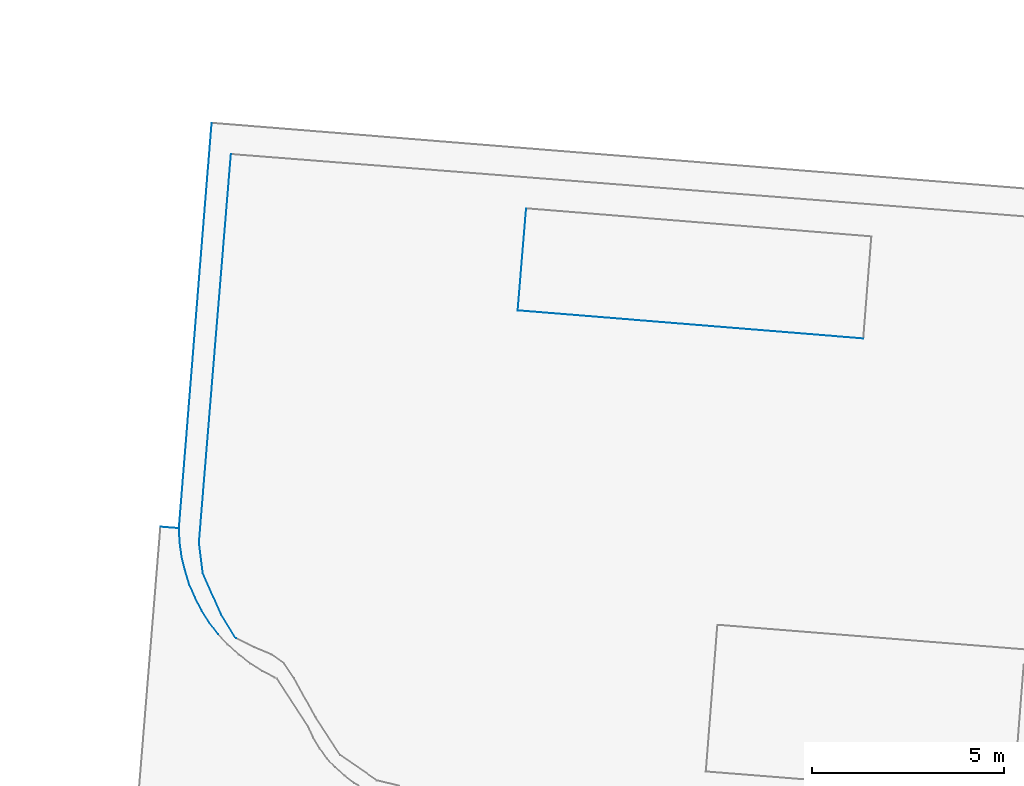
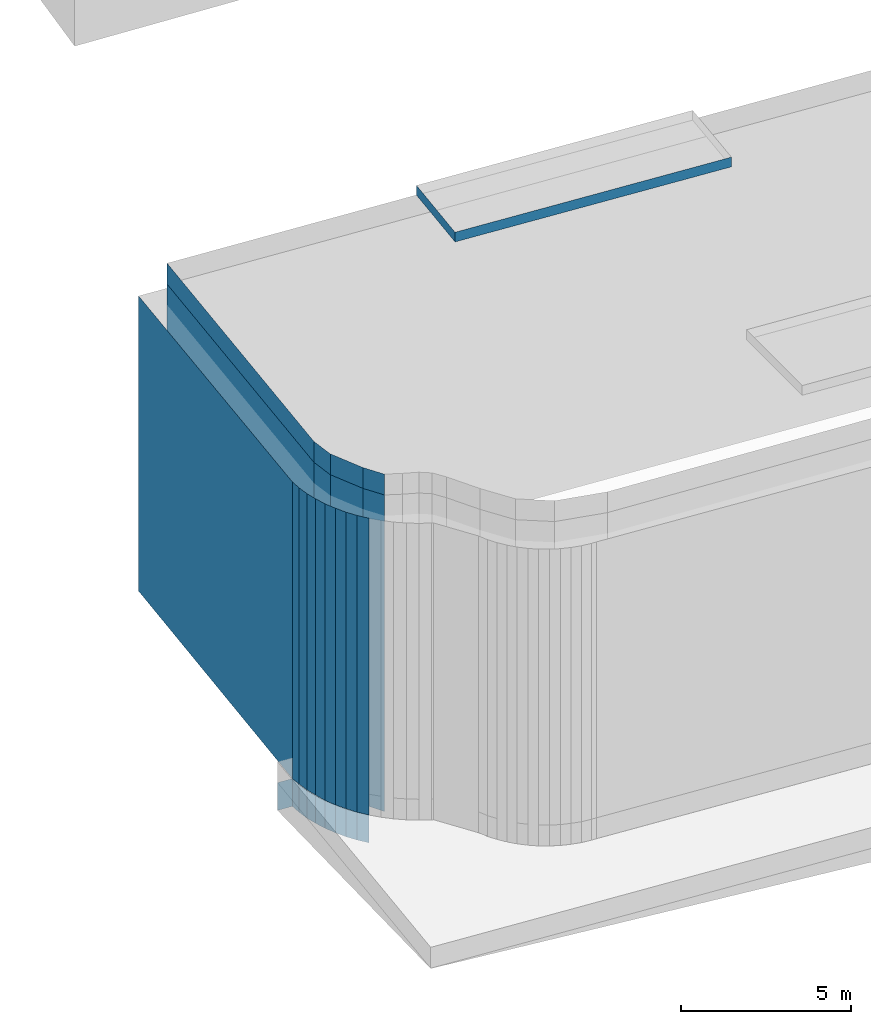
# Not in any storey, part 61 of 136: 34 walls.
"""IFC2X3 building model written with IfcOpenShell, lengths in metres."""

import ifcopenshell
import ifcopenshell.guid

model = None  # the IFC model being written
_history = None  # IfcOwnerHistory: only IFC2X3 demands one
_inside = {}  # id of a spatial element -> (the spatial element, [elements in it])
_under = {}  # id of a project, library or spatial element -> (it, [spatial elements below it])
_declared = {}  # id of a project -> (the project, [libraries it declares])
_typed = {}  # id of a type object -> (the type object, [elements of that type])
_made_of = {}  # id of a material, layer set ... -> (it, [elements and type objects made of it])


def new_model(schema):
    """Start an empty IFC model of exactly this schema.

    Asked for "IFC4X3", IfcOpenShell would pick the latest addendum, in which some entities
    have other attributes; the version numbers below select the first issue.
    IFC2X3 requires an IfcOwnerHistory on every rooted entity: one is made here for all.
    """
    global model, _history
    if schema == "IFC4X3":
        model = ifcopenshell.file(schema_version=(4, 3, 0, 0))
    else:
        model = ifcopenshell.file(schema=schema)
    _inside.clear()
    _under.clear()
    _declared.clear()
    _typed.clear()
    _made_of.clear()
    _history = None
    if model.schema == "IFC2X3":
        org = make("IfcOrganization", Name="unknown")
        user = make(
            "IfcPersonAndOrganization",
            ThePerson=make("IfcPerson", FamilyName="unknown"),
            TheOrganization=org,
        )
        app = make(
            "IfcApplication",
            ApplicationDeveloper=org,
            Version="unknown",
            ApplicationFullName="unknown",
            ApplicationIdentifier="unknown",
        )
        _history = make(
            "IfcOwnerHistory",
            OwningUser=user,
            OwningApplication=app,
            ChangeAction="ADDED",
            CreationDate=0,
        )
    return model


def make(cls, **values):
    """One entity of the class cls with the attributes given. An attribute that is None is left unset."""
    return model.create_entity(
        cls, **{name: value for name, value in values.items() if value is not None}
    )


def entity(cls, *values):
    """Any entity or typed value of the class cls, its attributes in the order of the schema. None: left unset."""
    e = model.create_entity(cls)
    for i, value in enumerate(values):
        if value is not None:
            e[i] = value
    return e


def rooted(cls, **values):
    """An entity with a GlobalId (a new one), such as an element, a storey or a relation."""
    return make(cls, GlobalId=ifcopenshell.guid.new(), OwnerHistory=_history, **values)


def si_unit(unit_type, name, prefix=None):
    """IfcSIUnit, for example si_unit("LENGTHUNIT", "METRE", prefix="MILLI")."""
    return make("IfcSIUnit", UnitType=unit_type, Prefix=prefix, Name=name)


def converted_unit(unit_type, name, factor, base, dimensions=None, offset=None):
    """IfcConversionBasedUnit, such as the inch: factor (a typed value) times the base unit."""
    return make(
        "IfcConversionBasedUnit"
        if offset is None
        else "IfcConversionBasedUnitWithOffset",
        ConversionOffset=offset,
        Dimensions=None
        if dimensions is None
        else entity("IfcDimensionalExponents", *dimensions),
        UnitType=unit_type,
        Name=name,
        ConversionFactor=make(
            "IfcMeasureWithUnit", ValueComponent=factor, UnitComponent=base
        ),
    )


def assignment(units):
    """IfcUnitAssignment: the units of a project."""
    return None if units is None else make("IfcUnitAssignment", Units=units)


def point(xyz):
    """IfcCartesianPoint."""
    return None if xyz is None else make("IfcCartesianPoint", Coordinates=xyz)


def direction(xyz):
    """IfcDirection."""
    return None if xyz is None else make("IfcDirection", DirectionRatios=xyz)


def frame(location, z_axis=None, x_axis=None):
    """IfcAxis2Placement3D, a coordinate frame: its origin and axes. An axis left out is left unset."""
    return make(
        "IfcAxis2Placement3D",
        Location=point(location),
        Axis=direction(z_axis),
        RefDirection=direction(x_axis),
    )


def origin():
    """The frame at (0, 0, 0) with its axes left unset."""
    return frame((0.0, 0.0, 0.0))


def place(relative_to, where):
    """IfcLocalPlacement: puts the frame where relative to a parent placement (None: the world)."""
    return make(
        "IfcLocalPlacement", PlacementRelTo=relative_to, RelativePlacement=where
    )


def context(
    kind, dimensions, precision=None, world=None, true_north=None, identifier=None
):
    """IfcGeometricRepresentationContext, for example the 3D "Model" context."""
    return make(
        "IfcGeometricRepresentationContext",
        ContextIdentifier=identifier,
        ContextType=kind,
        CoordinateSpaceDimension=dimensions,
        Precision=precision,
        WorldCoordinateSystem=world,
        TrueNorth=true_north,
    )


def subcontext(parent, identifier, kind, view, scale=None):
    """IfcGeometricRepresentationSubContext, for example "Body" below "Model"."""
    return make(
        "IfcGeometricRepresentationSubContext",
        ContextIdentifier=identifier,
        ContextType=kind,
        ParentContext=parent,
        TargetScale=scale,
        TargetView=view,
    )


def project(units=None, contexts=None):
    """IfcProject with its units and contexts."""
    return rooted(
        "IfcProject",
        Name="project",
        RepresentationContexts=contexts,
        UnitsInContext=assignment(units),
    )


def spatial(cls, under=None, at=None, **own):
    """A site, building, storey or space (cls), placed at a placement, below another one or the project."""
    s = rooted(cls, ObjectPlacement=at, **own)
    if under is not None:
        _under.setdefault(under.id(), (under, []))[1].append(s)
    return s


def faces_of(points, faces, orient=None, outer=None):
    """IfcFace entities. A face is a list of loops; a loop is a list of indices into points, from 0.

    orient and outer hold one flag for each loop. By default every Orientation is true, the
    first loop of a face is its IfcFaceOuterBound and the others are IfcFaceBound.
    """
    made = []
    for i, loops in enumerate(faces):
        bounds = []
        for j, loop in enumerate(loops):
            is_outer = j == 0 if outer is None else outer[i][j]
            bounds.append(
                make(
                    "IfcFaceOuterBound" if is_outer else "IfcFaceBound",
                    Bound=make("IfcPolyLoop", Polygon=[points[k] for k in loop]),
                    Orientation=True if orient is None else orient[i][j],
                )
            )
        made.append(make("IfcFace", Bounds=bounds))
    return made


def face_set(faces, orient=None, outer=None):
    """The faces of one IfcConnectedFaceSet. surface_model builds it on its shared points."""
    return ("IfcConnectedFaceSet", faces, orient, outer)


def surface_model(cls, points, shells):
    """IfcFaceBasedSurfaceModel or IfcShellBasedSurfaceModel (cls): surfaces that need not close."""
    shared = [point(p) for p in points]
    made = [make(c, CfsFaces=faces_of(shared, fs, o, b)) for c, fs, o, b in shells]
    if cls == "IfcFaceBasedSurfaceModel":
        return make(cls, FbsmFaces=made)
    return make(cls, SbsmBoundary=made)


def shape(context_of_items, identifier, shape_type, items):
    """IfcShapeRepresentation: the items that make up one representation, for example the "Body"."""
    return make(
        "IfcShapeRepresentation",
        ContextOfItems=context_of_items,
        RepresentationIdentifier=identifier,
        RepresentationType=shape_type,
        Items=items,
    )


def made_of(thing, what):
    """Note that an element or type object is made of a material, layer set ...; save() writes the relation."""
    if what is not None:
        _made_of.setdefault(what.id(), (what, []))[1].append(thing)
    return thing


def element(
    cls,
    number,
    at=None,
    inside=None,
    cuts=None,
    type_object=None,
    material=None,
    context=None,
    identifier="Body",
    shape_type=None,
    held_by="IfcProductDefinitionShape",
    body=None,
    shapes=None,
    **own,
):
    """One element of the class cls, such as IfcWall. Its Tag is "e" and its number.

    at: its placement. inside: the storey or other place that contains it. cuts: it is an
    opening in that element (IfcRelVoidsElement). A single representation is given by context,
    identifier, shape_type and body (its items); several are given by shapes. held_by: the class
    of the entity that holds the representations. save() writes the other relations.
    """
    e = rooted(cls, Tag="e%d" % number, ObjectPlacement=at, **own)
    if body is not None:
        shapes = [shape(context, identifier, shape_type, body)]
    if shapes is not None:
        e.Representation = make(held_by, Representations=shapes)
    if inside is not None:
        _inside.setdefault(inside.id(), (inside, []))[1].append(e)
    if cuts is not None:
        rooted(
            "IfcRelVoidsElement", RelatingBuildingElement=cuts, RelatedOpeningElement=e
        )
    if type_object is not None:
        _typed.setdefault(type_object.id(), (type_object, []))[1].append(e)
    return made_of(e, material)


def aggregate(whole, parts):
    """IfcRelAggregates: a whole, such as a stair, and the parts it consists of."""
    return rooted("IfcRelAggregates", RelatingObject=whole, RelatedObjects=parts)


def save(model, path):
    """Write the relations noted so far, then the file.

    IfcRelAggregates (storeys below a building ...), IfcRelContainedInSpatialStructure (elements
    in a storey), IfcRelDefinesByType, IfcRelAssociatesMaterial and IfcRelDeclares: one each for
    every whole, place, type object, material and project.
    """
    for whole, parts in _under.values():
        aggregate(whole, parts)
    for where, things in _inside.values():
        rooted(
            "IfcRelContainedInSpatialStructure",
            RelatedElements=things,
            RelatingStructure=where,
        )
    for kind, things in _typed.values():
        rooted("IfcRelDefinesByType", RelatedObjects=things, RelatingType=kind)
    for what, things in _made_of.values():
        rooted("IfcRelAssociatesMaterial", RelatedObjects=things, RelatingMaterial=what)
    for by, libraries in _declared.values():
        rooted("IfcRelDeclares", RelatingContext=by, RelatedDefinitions=libraries)
    model.write(path)


model = new_model("IFC2X3")

# Units and contexts
model_context = context("Model", 3, precision=1e-05, world=origin())
body_context = subcontext(model_context, "Body", "Model", "MODEL_VIEW")
ifc_project = project(units=[converted_unit("PLANEANGLEUNIT", "DEGREE", entity("IfcRatioMeasure", 0.0174532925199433), si_unit("PLANEANGLEUNIT", "RADIAN"), dimensions=[0, 0, 0, 0, 0, 0, 0]), si_unit("AREAUNIT", "SQUARE_METRE"), si_unit("LENGTHUNIT", "METRE")], contexts=[model_context])

# Site, building
site_placement = place(None, origin())
site = spatial("IfcSite", under=ifc_project, at=site_placement, Name="_site", CompositionType="ELEMENT")
building_placement = place(site_placement, origin())
building = spatial("IfcBuilding", under=site, at=building_placement, Name="_building", CompositionType="ELEMENT")

# Walls
wall_1_placement = place(building_placement, origin())
element("IfcWall", 1, at=wall_1_placement, inside=building, Name="Wall", context=body_context, shape_type="SurfaceModel", body=[
    surface_model("IfcFaceBasedSurfaceModel", [(175.74, 57.46, 48.6), (175.57, 57.8, 48.6), (175.57, 57.8, 37.93), (175.74, 57.46, 37.939)], [face_set([[[0, 1, 2, 3]]])]),
])
wall_2_placement = place(building_placement, origin())
element("IfcWall", 2, at=wall_2_placement, inside=building, Name="Wall", context=body_context, shape_type="SurfaceModel", body=[
    surface_model("IfcFaceBasedSurfaceModel", [(175.17, 59.23, 48.6), (175.15, 59.601, 48.6), (175.15, 59.601, 37.93), (175.17, 59.23, 37.946)], [face_set([[[0, 1, 2, 3]]])]),
])
wall_3_placement = place(building_placement, origin())
element("IfcWall", 3, at=wall_3_placement, inside=building, Name="Wall", context=body_context, shape_type="SurfaceModel", body=[
    surface_model("IfcFaceBasedSurfaceModel", [(175.67, 59.23, 49.344), (176.5, 69.32, 49.344), (176.5, 69.32, 50.094), (175.67, 59.23, 50.094)], [face_set([[[0, 1, 2, 3]]])]),
])
wall_4_placement = place(building_placement, origin())
element("IfcWall", 4, at=wall_4_placement, inside=building, Name="Wall", context=body_context, shape_type="SurfaceModel", body=[
    surface_model("IfcFaceBasedSurfaceModel", [(176.63, 56.74, 49.344), (176.25, 57.351, 49.344), (176.25, 57.351, 50.094), (176.63, 56.74, 50.094)], [face_set([[[0, 1, 2, 3]]])]),
])
wall_5_placement = place(building_placement, origin())
element("IfcWall", 5, at=wall_5_placement, inside=building, Name="Wall", context=body_context, shape_type="SurfaceModel", body=[
    surface_model("IfcFaceBasedSurfaceModel", [(175.94, 57.15, 48.6), (175.74, 57.46, 48.6), (175.74, 57.46, 37.939), (175.94, 57.15, 37.93)], [face_set([[[0, 1, 2, 3]]])]),
])
wall_6_placement = place(building_placement, origin())
element("IfcWall", 6, at=wall_6_placement, inside=building, Name="Wall", context=body_context, shape_type="SurfaceModel", body=[
    surface_model("IfcFaceBasedSurfaceModel", [(175.42, 58.14, 37.93), (175.57, 57.8, 37.93), (175.57, 57.8, 36.93), (175.42, 58.14, 36.93)], [face_set([[[0, 1, 2, 3]]])]),
])
wall_7_placement = place(building_placement, origin())
element("IfcWall", 7, at=wall_7_placement, inside=building, Name="Wall", context=body_context, shape_type="SurfaceModel", body=[
    surface_model("IfcFaceBasedSurfaceModel", [(175.74, 57.46, 37.93), (175.94, 57.15, 37.93), (175.94, 57.15, 36.93), (175.74, 57.46, 36.93)], [face_set([[[0, 1, 2, 3]]])]),
])
wall_8_placement = place(building_placement, origin())
element("IfcWall", 8, at=wall_8_placement, inside=building, Name="Wall", context=body_context, shape_type="SurfaceModel", body=[
    surface_model("IfcFaceBasedSurfaceModel", [(175.94, 57.15, 37.93), (176.17, 56.851, 37.93), (176.17, 56.851, 36.93), (175.94, 57.15, 36.93)], [face_set([[[0, 1, 2, 3]]])]),
])
wall_9_placement = place(building_placement, origin())
element("IfcWall", 9, at=wall_9_placement, inside=building, Name="Wall", context=body_context, shape_type="SurfaceModel", body=[
    surface_model("IfcFaceBasedSurfaceModel", [(175.67, 59.23, 49.344), (176.5, 69.32, 49.344), (176.5, 69.32, 50.094), (175.67, 59.23, 50.094)], [face_set([[[0, 1, 2, 3]]])]),
])
wall_10_placement = place(building_placement, origin())
element("IfcWall", 10, at=wall_10_placement, inside=building, Name="Wall", context=body_context, shape_type="SurfaceModel", body=[
    surface_model("IfcFaceBasedSurfaceModel", [(176.25, 57.351, 49.344), (175.77, 58.44, 49.344), (175.77, 58.44, 50.094), (176.25, 57.351, 50.094)], [face_set([[[0, 1, 2, 3]]])]),
])
wall_11_placement = place(building_placement, origin())
element("IfcWall", 11, at=wall_11_placement, inside=building, Name="Wall", context=body_context, shape_type="SurfaceModel", body=[
    surface_model("IfcFaceBasedSurfaceModel", [(176.63, 56.74, 49.344), (176.25, 57.351, 49.344), (176.25, 57.351, 50.094), (176.63, 56.74, 50.094)], [face_set([[[0, 1, 2, 3]]])]),
])
wall_12_placement = place(building_placement, origin())
element("IfcWall", 12, at=wall_12_placement, inside=building, Name="Wall", context=body_context, shape_type="SurfaceModel", body=[
    surface_model("IfcFaceBasedSurfaceModel", [(175.77, 58.44, 49.344), (175.67, 59.23, 49.344), (175.67, 59.23, 50.094), (175.77, 58.44, 50.094)], [face_set([[[0, 1, 2, 3]]])]),
])
wall_13_placement = place(building_placement, origin())
element("IfcWall", 13, at=wall_13_placement, inside=building, Name="Wall", context=body_context, shape_type="SurfaceModel", body=[
    surface_model("IfcFaceBasedSurfaceModel", [(176.25, 57.351, 49.344), (175.77, 58.44, 49.344), (175.77, 58.44, 37.954), (176.25, 57.351, 37.984)], [face_set([[[0, 1, 2, 3]]])]),
])
wall_14_placement = place(building_placement, origin())
element("IfcWall", 14, at=wall_14_placement, inside=building, Name="Wall", context=body_context, shape_type="SurfaceModel", body=[
    surface_model("IfcFaceBasedSurfaceModel", [(175.15, 59.601, 48.6), (176.0, 70.13, 48.6), (176.0, 70.13, 37.991), (175.15, 59.601, 37.93)], [face_set([[[0, 1, 2, 3]]])]),
])
wall_15_placement = place(building_placement, origin())
element("IfcWall", 15, at=wall_15_placement, inside=building, Name="Wall", context=body_context, shape_type="SurfaceModel", body=[
    surface_model("IfcFaceBasedSurfaceModel", [(175.31, 58.5, 48.6), (175.22, 58.86, 48.6), (175.22, 58.86, 37.947), (175.31, 58.5, 37.948)], [face_set([[[0, 1, 2, 3]]])]),
])
wall_16_placement = place(building_placement, origin())
element("IfcWall", 16, at=wall_16_placement, inside=building, Name="Wall", context=body_context, shape_type="SurfaceModel", body=[
    surface_model("IfcFaceBasedSurfaceModel", [(183.95, 65.26, 51.06), (184.17, 67.91, 51.06), (184.17, 67.91, 50.71), (183.95, 65.26, 50.71)], [face_set([[[0, 1, 2, 3]]])]),
])
wall_17_placement = place(building_placement, origin())
element("IfcWall", 17, at=wall_17_placement, inside=building, Name="Wall", context=body_context, shape_type="SurfaceModel", body=[
    surface_model("IfcFaceBasedSurfaceModel", [(175.31, 58.5, 37.93), (175.42, 58.14, 37.93), (175.42, 58.14, 36.93), (175.31, 58.5, 36.93)], [face_set([[[0, 1, 2, 3]]])]),
])
wall_18_placement = place(building_placement, origin())
element("IfcWall", 18, at=wall_18_placement, inside=building, Name="Wall", context=body_context, shape_type="SurfaceModel", body=[
    surface_model("IfcFaceBasedSurfaceModel", [(174.67, 59.64, 37.93), (175.15, 59.601, 37.93), (175.15, 59.601, 36.93), (174.67, 59.64, 36.93)], [face_set([[[0, 1, 2, 3]]])]),
])
wall_19_placement = place(building_placement, origin())
element("IfcWall", 19, at=wall_19_placement, inside=building, Name="Wall", context=body_context, shape_type="SurfaceModel", body=[
    surface_model("IfcFaceBasedSurfaceModel", [(175.15, 59.601, 37.93), (175.17, 59.23, 37.93), (175.17, 59.23, 36.93), (175.15, 59.601, 36.93)], [face_set([[[0, 1, 2, 3]]])]),
])
wall_20_placement = place(building_placement, origin())
element("IfcWall", 20, at=wall_20_placement, inside=building, Name="Wall", context=body_context, shape_type="SurfaceModel", body=[
    surface_model("IfcFaceBasedSurfaceModel", [(175.57, 57.8, 37.93), (175.74, 57.46, 37.93), (175.74, 57.46, 36.93), (175.57, 57.8, 36.93)], [face_set([[[0, 1, 2, 3]]])]),
])
wall_21_placement = place(building_placement, origin())
element("IfcWall", 21, at=wall_21_placement, inside=building, Name="Wall", context=body_context, shape_type="SurfaceModel", body=[
    surface_model("IfcFaceBasedSurfaceModel", [(175.42, 58.14, 48.6), (175.31, 58.5, 48.6), (175.31, 58.5, 37.948), (175.42, 58.14, 37.935)], [face_set([[[0, 1, 2, 3]]])]),
])
wall_22_placement = place(building_placement, origin())
element("IfcWall", 22, at=wall_22_placement, inside=building, Name="Wall", context=body_context, shape_type="SurfaceModel", body=[
    surface_model("IfcFaceBasedSurfaceModel", [(175.22, 58.86, 37.93), (175.31, 58.5, 37.93), (175.31, 58.5, 36.93), (175.22, 58.86, 36.93)], [face_set([[[0, 1, 2, 3]]])]),
])
wall_23_placement = place(building_placement, origin())
element("IfcWall", 23, at=wall_23_placement, inside=building, Name="Wall", context=body_context, shape_type="SurfaceModel", body=[
    surface_model("IfcFaceBasedSurfaceModel", [(176.63, 56.74, 49.344), (176.25, 57.351, 49.344), (176.25, 57.351, 37.984), (176.63, 56.74, 37.964)], [face_set([[[0, 1, 2, 3]]])]),
])
wall_24_placement = place(building_placement, origin())
element("IfcWall", 24, at=wall_24_placement, inside=building, Name="Wall", context=body_context, shape_type="SurfaceModel", body=[
    surface_model("IfcFaceBasedSurfaceModel", [(175.67, 59.23, 49.344), (176.5, 69.32, 49.344), (176.5, 69.32, 37.996), (175.67, 59.23, 37.94)], [face_set([[[0, 1, 2, 3]]])]),
])
wall_25_placement = place(building_placement, origin())
element("IfcWall", 25, at=wall_25_placement, inside=building, Name="Wall", context=body_context, shape_type="SurfaceModel", body=[
    surface_model("IfcFaceBasedSurfaceModel", [(175.77, 58.44, 49.344), (175.67, 59.23, 49.344), (175.67, 59.23, 37.94), (175.77, 58.44, 37.954)], [face_set([[[0, 1, 2, 3]]])]),
])
for number, where, name in (
    (26, (0.0, 0.0, 0.0), "Wall"),
    (27, (0.0, 0.0, 0.0), "Wall"),
):
    element("IfcWall", number, at=place(building_placement, frame(where)), inside=building, Name=name, context=body_context, shape_type="SurfaceModel", body=[
        surface_model("IfcFaceBasedSurfaceModel", [(192.93, 64.53, 51.06), (183.95, 65.26, 51.06), (183.95, 65.26, 50.71), (192.93, 64.53, 50.71)], [face_set([[[0, 1, 2, 3]]])]),
    ])
wall_26_placement = place(building_placement, origin())
element("IfcWall", 28, at=wall_26_placement, inside=building, Name="Wall", context=body_context, shape_type="SurfaceModel", body=[
    surface_model("IfcFaceBasedSurfaceModel", [(183.95, 65.26, 51.06), (184.17, 67.91, 51.06), (184.17, 67.91, 50.71), (183.95, 65.26, 50.71)], [face_set([[[0, 1, 2, 3]]])]),
])
wall_27_placement = place(building_placement, origin())
element("IfcWall", 29, at=wall_27_placement, inside=building, Name="Wall", context=body_context, shape_type="SurfaceModel", body=[
    surface_model("IfcFaceBasedSurfaceModel", [(176.25, 57.351, 49.344), (175.77, 58.44, 49.344), (175.77, 58.44, 50.094), (176.25, 57.351, 50.094)], [face_set([[[0, 1, 2, 3]]])]),
])
wall_28_placement = place(building_placement, origin())
element("IfcWall", 30, at=wall_28_placement, inside=building, Name="Wall", context=body_context, shape_type="SurfaceModel", body=[
    surface_model("IfcFaceBasedSurfaceModel", [(175.57, 57.8, 48.6), (175.42, 58.14, 48.6), (175.42, 58.14, 37.935), (175.57, 57.8, 37.93)], [face_set([[[0, 1, 2, 3]]])]),
])
wall_29_placement = place(building_placement, origin())
element("IfcWall", 31, at=wall_29_placement, inside=building, Name="Wall", context=body_context, shape_type="SurfaceModel", body=[
    surface_model("IfcFaceBasedSurfaceModel", [(175.77, 58.44, 49.344), (175.67, 59.23, 49.344), (175.67, 59.23, 50.094), (175.77, 58.44, 50.094)], [face_set([[[0, 1, 2, 3]]])]),
])
wall_30_placement = place(building_placement, origin())
element("IfcWall", 32, at=wall_30_placement, inside=building, Name="Wall", context=body_context, shape_type="SurfaceModel", body=[
    surface_model("IfcFaceBasedSurfaceModel", [(175.17, 59.23, 37.93), (175.22, 58.86, 37.93), (175.22, 58.86, 36.93), (175.17, 59.23, 36.93)], [face_set([[[0, 1, 2, 3]]])]),
])
wall_31_placement = place(building_placement, origin())
element("IfcWall", 33, at=wall_31_placement, inside=building, Name="Wall", context=body_context, shape_type="SurfaceModel", body=[
    surface_model("IfcFaceBasedSurfaceModel", [(176.17, 56.851, 48.6), (175.94, 57.15, 48.6), (175.94, 57.15, 37.93), (176.17, 56.851, 37.93)], [face_set([[[0, 1, 2, 3]]])]),
])
wall_32_placement = place(building_placement, origin())
element("IfcWall", 34, at=wall_32_placement, inside=building, Name="Wall", context=body_context, shape_type="SurfaceModel", body=[
    surface_model("IfcFaceBasedSurfaceModel", [(175.22, 58.86, 48.6), (175.17, 59.23, 48.6), (175.17, 59.23, 37.946), (175.22, 58.86, 37.947)], [face_set([[[0, 1, 2, 3]]])]),
])

save(model, "model.ifc")
